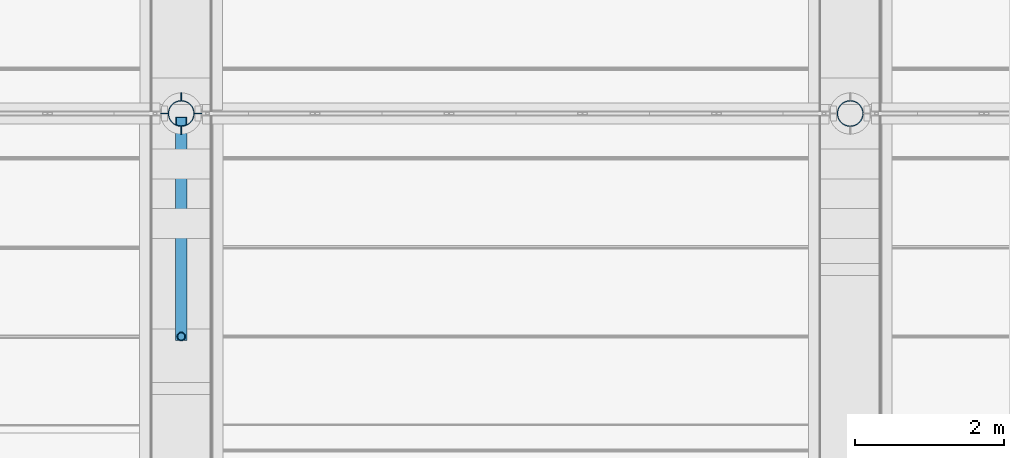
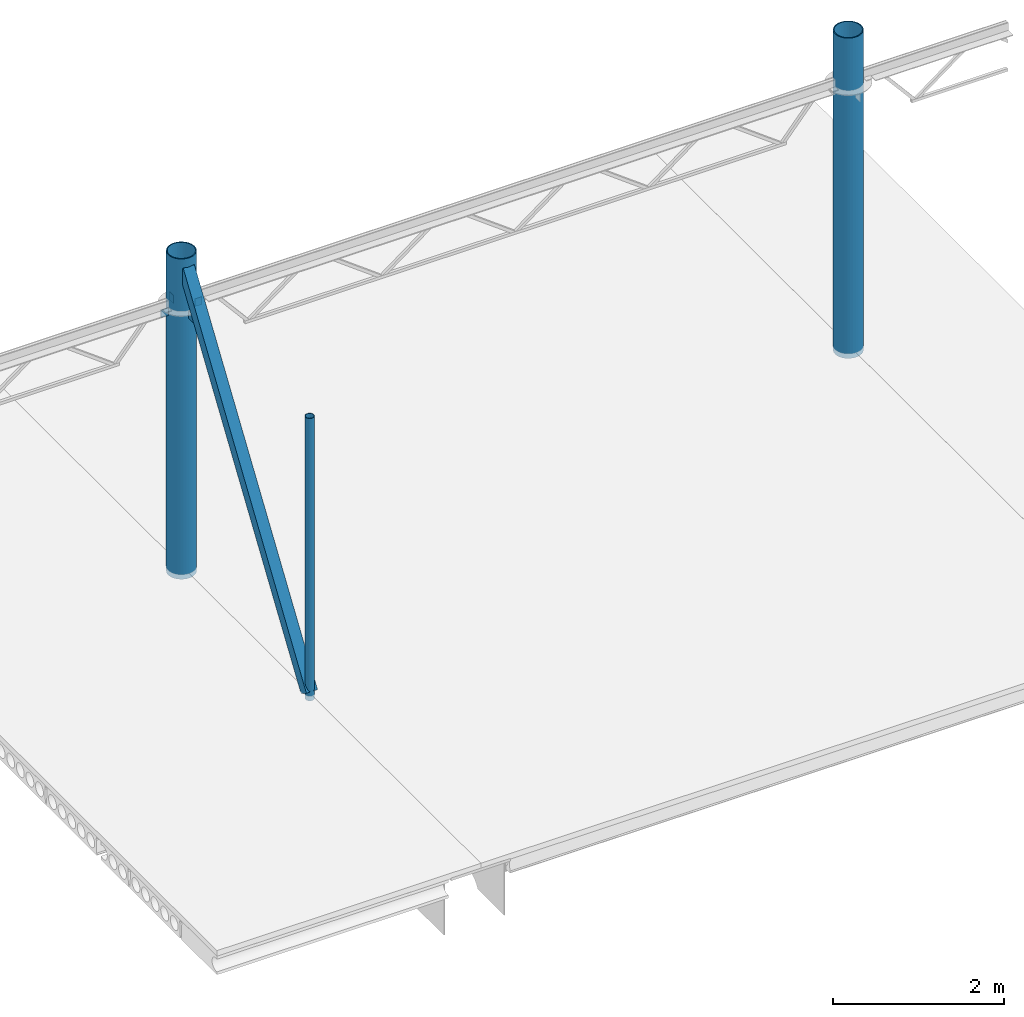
# One storey, part 1 of 21: 8 columns.
"""IFC2X3 building model written with IfcOpenShell, lengths in millimetres."""

from ifc_helpers import new_model, entity, si_unit, converted_unit, derived_unit, direction, frame, origin_with_axes, place, context, subcontext, project, spatial, faceted_brep, material, type_object, element, save


model = new_model("IFC2X3")

# Units and contexts
model_context = context("Model", 3, precision=0.01, world=frame((0.0, 4.29681676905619e-09, 0.0)), true_north=direction((4.01073788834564e-13, 1.0)))
plan_context = context("Plan", 3, precision=0.01, world=frame((0.0, 4.29681676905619e-09, 0.0)), true_north=direction((4.01073788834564e-13, 1.0)))
body_context = subcontext(model_context, "Body", "Model", "MODEL_VIEW")
ifc_project = project(units=[converted_unit("PLANEANGLEUNIT", "DEGREE", entity("IfcPositiveLengthMeasure", 0.0174532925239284), si_unit("PLANEANGLEUNIT", "RADIAN"), dimensions=[0, 0, 0, 0, 0, 0, 0]), si_unit("AREAUNIT", "SQUARE_METRE"), si_unit("LENGTHUNIT", "METRE", prefix="MILLI"), si_unit("MASSUNIT", "GRAM", prefix="KILO"), si_unit("POWERUNIT", "WATT"), si_unit("PRESSUREUNIT", "PASCAL", prefix="KILO"), si_unit("FORCEUNIT", "NEWTON", prefix="KILO"), si_unit("ELECTRICVOLTAGEUNIT", "VOLT"), si_unit("ELECTRICCURRENTUNIT", "AMPERE"), si_unit("THERMODYNAMICTEMPERATUREUNIT", "DEGREE_CELSIUS"), si_unit("TIMEUNIT", "SECOND"), si_unit("VOLUMEUNIT", "CUBIC_METRE"), derived_unit("LINEARVELOCITYUNIT", [(si_unit("LENGTHUNIT", "METRE"), 1), (si_unit("TIMEUNIT", "SECOND"), -1)]), derived_unit("VOLUMETRICFLOWRATEUNIT", [(si_unit("VOLUMEUNIT", "CUBIC_METRE"), 1), (si_unit("TIMEUNIT", "SECOND"), -1)]), derived_unit("THERMALTRANSMITTANCEUNIT", [(si_unit("POWERUNIT", "WATT"), 1), (si_unit("THERMODYNAMICTEMPERATUREUNIT", "KELVIN"), -1), (si_unit("AREAUNIT", "SQUARE_METRE"), -1)]), derived_unit("SOUNDPRESSUREUNIT", [(si_unit("PRESSUREUNIT", "PASCAL"), 1)])], contexts=[model_context, plan_context])

# Site, building, storey
site_placement = place(None, frame((0.0, -4.29681676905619e-09, 0.0), z_axis=(0.0, 0.0, 1.0), x_axis=(1.0, 0.0, 0.0)))
site = spatial("IfcSite", under=ifc_project, at=site_placement, Name="Gardermoen", CompositionType="ELEMENT")
building_placement = place(site_placement, frame((0.0, 4.29681676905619e-09, 0.0), z_axis=(0.0, 0.0, 1.0), x_axis=(1.0, 0.0, 0.0)))
building = spatial("IfcBuilding", under=site, at=building_placement, Name="TS", CompositionType="ELEMENT")
storey_placement = place(building_placement, origin_with_axes())
storey = spatial("IfcBuildingStorey", under=building, at=storey_placement, Name="F", CompositionType="ELEMENT", Elevation=0.0)

# Columns
ifc_material = material(Name="STEEL/S355")
column_type_1 = type_object("IfcColumnType", Name="RHS150*8", PredefinedType="NOTDEFINED")
column_1_placement = place(storey_placement, frame((717999.999908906, 438509.245655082, 210890.694603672), z_axis=(-1.3660000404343e-06, 0.831946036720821, -0.554856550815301), x_axis=(-9.10999991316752e-07, 0.554856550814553, 0.831946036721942)))
element("IfcColumn", 1, at=column_1_placement, inside=storey, type_object=column_type_1, material=ifc_material, Name="STÅLDIAGONAL", ObjectType="RHS150*8", context=body_context, shape_type="Brep", body=[
    faceted_brep([(8.14907252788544e-10, 67.0000000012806, -66.9999999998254), (-1.16415321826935e-10, -66.9999999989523, -67.0000000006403), (5190.1397421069, -66.9999997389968, -66.9999999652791), (5190.13974210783, 67.000000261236, -66.999999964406), (-8.14907252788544e-10, -67.0000000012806, 66.9999999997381), (5190.1397421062, -66.9999997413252, 67.0000000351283), (5.82076609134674e-11, 66.9999999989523, 67.000000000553), (5190.13974210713, 67.0000002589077, 67.0000000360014), (2.6775524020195e-09, 75.0, -75.0), (2.6775524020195e-09, 75.0, 75.0), (5190.13974210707, 75.0000002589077, 75.0000000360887), (5190.13974210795, 75.0000002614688, -74.999999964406), (0.0, -75.0, 75.0), (5190.13974210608, -74.9999997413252, 75.0000000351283), (-2.79396772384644e-09, -75.0000000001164, -75.0), (5190.1397421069, -74.9999997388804, -74.9999999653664)], [[[0, 1, 2, 3]], [[1, 4, 5, 2]], [[4, 6, 7, 5]], [[6, 0, 3, 7]], [[8, 9, 10, 11]], [[9, 12, 13, 10]], [[12, 14, 15, 13]], [[14, 8, 11, 15]], [[13, 15, 11, 10], [5, 7, 3, 2]], [[14, 12, 9, 8], [6, 4, 1, 0]]]),
])
column_type_2 = type_object("IfcColumnType", Name="100*10", PredefinedType="NOTDEFINED")
for number, where, z_axis, x_axis in (
    (2, (718000.0, 441728.0, 214510.999999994), (0.0, -1.0, 0.0), (0.0, 0.0, 1.0)),
    (3, (718228.0, 441500.0, 214510.999999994), (-0.999999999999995, -9.99999902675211e-08, 0.0), (0.0, 0.0, 1.0)),
    (4, (718000.0, 441272.0, 214510.999999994), (0.0, 1.0, 0.0), (0.0, 0.0, 1.0)),
    (5, (717772.0, 441500.0, 214510.999999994), (1.0, 0.0, 0.0), (0.0, 0.0, 1.0)),
):
    element("IfcColumn", number, at=place(storey_placement, frame(where, z_axis=z_axis, x_axis=x_axis)), inside=storey, type_object=column_type_2, material=ifc_material, Name="STÅLSØYLE", ObjectType="100*10", context=body_context, shape_type="Brep", body=[
        faceted_brep([(6.40284270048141e-10, 5.0, -50.0), (-5.82076609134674e-10, 5.00000000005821, 50.0), (109.999999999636, 4.99999999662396, 49.9999999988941), (109.999999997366, 4.99999999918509, -49.9999999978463), (-6.98491930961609e-10, -5.0, 50.0), (109.999999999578, -5.00000000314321, 49.9999999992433), (5.23868948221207e-10, -5.0, -50.0), (109.99999999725, -5.00000000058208, -49.9999999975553)], [[[0, 1, 2, 3]], [[1, 4, 5, 2]], [[4, 6, 7, 5]], [[6, 0, 3, 7]], [[5, 7, 3, 2]], [[6, 4, 1, 0]]]),
    ])
column_type_3 = type_object("IfcColumnType", Name="RØR114.3X7.1", PredefinedType="NOTDEFINED")
column_2_placement = place(storey_placement, frame((718000.0, 438500.0, 210805.0), z_axis=(0.999999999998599, 2.82727748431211e-27, 1.67399999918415e-06), x_axis=(-1.6739999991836e-06, 8.13000020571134e-07, 0.999999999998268)))
element("IfcColumn", 6, at=column_2_placement, inside=storey, type_object=column_type_3, material=ifc_material, Name="STÅLSØYLE", ObjectType="RØR114.3X7.1", context=body_context, shape_type="Brep", body=[
    faceted_brep([(2.03726813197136e-10, -50.050000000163, -4.65661287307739e-10), (1.16415321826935e-10, -47.6003786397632, 15.4663005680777), (4028.0000000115, -47.6003786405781, 15.4663006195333), (4028.0000000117, -50.0499999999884, 5.11063262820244e-08), (5.82076609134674e-11, -40.4913005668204, 29.4186518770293), (4028.00000001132, -40.4913005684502, 29.4186519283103), (5.82076609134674e-11, -29.4186518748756, 40.4913005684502), (4028.00000001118, -29.4186518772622, 40.4913006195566), (-2.91038304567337e-11, -15.4663005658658, 47.600378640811), (4028.00000001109, -15.4663005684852, 47.600378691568), (-8.73114913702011e-11, 2.79396772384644e-09, 50.0500000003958), (4028.00000001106, 0.0, 50.0500000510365), (-1.74622982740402e-10, 15.4663005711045, 47.6003786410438), (4028.00000001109, 15.4663005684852, 47.600378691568), (-2.3283064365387e-10, 29.4186518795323, 40.4913005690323), (4028.00000001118, 29.4186518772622, 40.4913006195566), (-2.3283064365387e-10, 40.4913005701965, 29.4186518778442), (4028.00000001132, 40.4913005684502, 29.4186519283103), (-1.74622982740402e-10, 47.6003786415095, 15.4663005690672), (4028.0000000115, 47.6003786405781, 15.4663006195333), (-2.3283064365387e-10, 50.050000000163, 4.65661287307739e-10), (4028.0000000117, 50.0499999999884, 5.11063262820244e-08), (-1.74622982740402e-10, 47.6003786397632, -15.4663005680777), (4028.0000000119, 47.6003786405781, -15.466300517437), (-8.73114913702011e-11, 40.4913005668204, -29.4186518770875), (4028.00000001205, 40.4913005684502, -29.418651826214), (-5.82076609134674e-11, 29.4186518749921, -40.4913005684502), (4028.00000001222, 29.4186518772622, -40.4913005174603), (0.0, 15.4663005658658, -47.600378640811), (4028.00000001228, 15.4663005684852, -47.6003785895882), (1.16415321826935e-10, -2.6775524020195e-09, -50.0500000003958), (4028.00000001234, 0.0, -50.0499999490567), (1.74622982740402e-10, -15.4663005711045, -47.6003786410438), (4028.00000001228, -15.4663005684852, -47.6003785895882), (1.74622982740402e-10, -29.4186518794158, -40.4913005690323), (4028.00000001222, -29.4186518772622, -40.4913005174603), (2.3283064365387e-10, -40.4913005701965, -29.4186518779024), (4028.00000001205, -40.4913005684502, -29.418651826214), (2.03726813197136e-10, -47.6003786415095, -15.4663005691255), (4028.0000000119, -47.6003786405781, -15.466300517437), (0.0, -57.1500000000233, 0.0), (0.0, -54.352879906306, -17.6603212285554), (4028.0000000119, -54.3528799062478, -17.6603211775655), (4028.0000000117, -57.1500000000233, 5.11063262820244e-08), (0.0, -46.2353212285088, -33.5919271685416), (4028.00000001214, -46.2353212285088, -33.5919271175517), (0.0, -33.5919271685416, -46.2353212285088), (4028.00000001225, -33.5919271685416, -46.2353211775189), (0.0, -17.6603212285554, -54.3528799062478), (4028.0000000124, -17.6603212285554, -54.3528798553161), (0.0, 0.0, -57.1500000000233), (4028.00000001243, 0.0, -57.1499999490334), (0.0, 17.6603212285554, -54.3528799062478), (4028.0000000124, 17.6603212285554, -54.3528798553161), (0.0, 33.5919271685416, -46.2353212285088), (4028.00000001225, 33.5919271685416, -46.2353211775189), (0.0, 46.2353212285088, -33.5919271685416), (4028.00000001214, 46.2353212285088, -33.5919271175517), (0.0, 54.352879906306, -17.6603212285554), (4028.0000000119, 54.3528799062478, -17.6603211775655), (0.0, 57.1500000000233, 0.0), (4028.0000000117, 57.1500000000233, 5.11063262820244e-08), (0.0, 54.352879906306, 17.6603212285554), (4028.00000001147, 54.3528799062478, 17.6603212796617), (0.0, 46.2353212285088, 33.5919271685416), (4028.00000001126, 46.2353212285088, 33.5919272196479), (0.0, 33.5919271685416, 46.2353212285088), (4028.00000001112, 33.5919271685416, 46.2353212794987), (0.0, 17.6603212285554, 54.3528799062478), (4028.000000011, 17.6603212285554, 54.352879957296), (0.0, 0.0, 57.1500000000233), (4028.00000001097, 0.0, 57.1500000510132), (0.0, -17.6603212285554, 54.3528799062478), (4028.000000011, -17.6603212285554, 54.352879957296), (0.0, -33.5919271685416, 46.2353212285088), (4028.00000001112, -33.5919271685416, 46.2353212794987), (0.0, -46.2353212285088, 33.5919271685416), (4028.00000001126, -46.2353212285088, 33.5919272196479), (0.0, -54.352879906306, 17.6603212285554), (4028.00000001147, -54.3528799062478, 17.6603212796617)], [[[0, 1, 2, 3]], [[1, 4, 5, 2]], [[4, 6, 7, 5]], [[6, 8, 9, 7]], [[8, 10, 11, 9]], [[10, 12, 13, 11]], [[12, 14, 15, 13]], [[14, 16, 17, 15]], [[16, 18, 19, 17]], [[18, 20, 21, 19]], [[20, 22, 23, 21]], [[22, 24, 25, 23]], [[24, 26, 27, 25]], [[26, 28, 29, 27]], [[28, 30, 31, 29]], [[30, 32, 33, 31]], [[32, 34, 35, 33]], [[34, 36, 37, 35]], [[36, 38, 39, 37]], [[38, 0, 3, 39]], [[40, 41, 42, 43]], [[41, 44, 45, 42]], [[44, 46, 47, 45]], [[46, 48, 49, 47]], [[48, 50, 51, 49]], [[50, 52, 53, 51]], [[52, 54, 55, 53]], [[54, 56, 57, 55]], [[56, 58, 59, 57]], [[58, 60, 61, 59]], [[60, 62, 63, 61]], [[62, 64, 65, 63]], [[64, 66, 67, 65]], [[66, 68, 69, 67]], [[68, 70, 71, 69]], [[70, 72, 73, 71]], [[72, 74, 75, 73]], [[74, 76, 77, 75]], [[76, 78, 79, 77]], [[78, 40, 43, 79]], [[45, 47, 49, 51, 53, 55, 57, 59, 61, 63, 65, 67, 69, 71, 73, 75, 77, 79, 43, 42], [5, 7, 9, 11, 13, 15, 17, 19, 21, 23, 25, 27, 29, 31, 33, 35, 37, 39, 3, 2]], [[78, 76, 74, 72, 70, 68, 66, 64, 62, 60, 58, 56, 54, 52, 50, 48, 46, 44, 41, 40], [38, 36, 34, 32, 30, 28, 26, 24, 22, 20, 18, 16, 14, 12, 10, 8, 6, 4, 1, 0]]]),
])
column_type_4 = type_object("IfcColumnType", Name="RØR355.6X12.5", PredefinedType="NOTDEFINED")
column_3_placement = place(storey_placement, frame((727000.0, 441500.0, 210805.0), z_axis=(0.999999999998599, 0.0, 1.67399999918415e-06), x_axis=(-1.67399999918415e-06, 0.0, 0.999999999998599)))
element("IfcColumn", 7, at=column_3_placement, inside=storey, type_object=column_type_4, material=ifc_material, Name="STÅLSØYLE", ObjectType="RØR355.6X12.5", context=body_context, shape_type="Brep", body=[
    faceted_brep([(0.0, -165.299999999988, 1.16415321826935e-10), (3.49245965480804e-10, -162.123806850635, 32.2484302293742), (4570.0000000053, -162.123806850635, 32.2484301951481), (4570.00000000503, -165.299999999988, -3.42261046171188e-08), (6.98491930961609e-10, -152.717286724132, 63.2575713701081), (4570.00000000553, -152.717286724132, 63.2575713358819), (1.01863406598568e-09, -137.441926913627, 91.8357595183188), (4570.00000000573, -137.441926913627, 91.8357594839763), (1.30967237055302e-09, -116.884750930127, 116.88475093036), (4570.00000000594, -116.884750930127, 116.884750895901), (1.54250301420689e-09, -91.8357595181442, 137.441926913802), (4570.00000000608, -91.8357595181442, 137.441926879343), (1.71712599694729e-09, -63.2575713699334, 152.717286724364), (4570.00000000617, -63.2575713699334, 152.717286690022), (1.83354131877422e-09, -32.2484302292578, 162.123806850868), (4570.00000000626, -32.2484302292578, 162.123806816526), (1.86264514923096e-09, 0.0, 165.300000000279), (4570.00000000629, 0.0, 165.299999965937), (1.83354131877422e-09, 32.2484302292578, 162.123806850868), (4570.00000000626, 32.2484302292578, 162.123806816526), (1.71712599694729e-09, 63.2575713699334, 152.717286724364), (4570.00000000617, 63.2575713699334, 152.717286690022), (1.54250301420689e-09, 91.8357595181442, 137.441926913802), (4570.00000000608, 91.8357595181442, 137.441926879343), (1.30967237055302e-09, 116.884750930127, 116.88475093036), (4570.00000000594, 116.884750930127, 116.884750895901), (1.01863406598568e-09, 137.441926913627, 91.8357595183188), (4570.00000000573, 137.441926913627, 91.8357594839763), (6.98491930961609e-10, 152.717286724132, 63.2575713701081), (4570.00000000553, 152.717286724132, 63.2575713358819), (3.49245965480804e-10, 162.123806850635, 32.2484302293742), (4570.0000000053, 162.123806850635, 32.2484301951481), (0.0, 165.299999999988, 1.16415321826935e-10), (4570.00000000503, 165.299999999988, -3.42261046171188e-08), (-3.49245965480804e-10, 162.123806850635, -32.2484302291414), (4570.0000000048, 162.123806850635, -32.2484302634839), (-6.98491930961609e-10, 152.717286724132, -63.2575713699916), (4570.00000000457, 152.717286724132, -63.2575714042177), (-1.01863406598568e-09, 137.441926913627, -91.835759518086), (4570.00000000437, 137.441926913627, -91.8357595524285), (-1.30967237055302e-09, 116.884750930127, -116.884750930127), (4570.00000000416, 116.884750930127, -116.884750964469), (-1.54250301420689e-09, 91.8357595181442, -137.441926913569), (4570.00000000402, 91.8357595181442, -137.441926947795), (-1.71712599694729e-09, 63.2575713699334, -152.717286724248), (4570.00000000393, 63.2575713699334, -152.717286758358), (-1.83354131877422e-09, 32.2484302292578, -162.123806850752), (4570.00000000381, 32.2484302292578, -162.123806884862), (-1.86264514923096e-09, 0.0, -165.300000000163), (4570.00000000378, 0.0, -165.300000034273), (-1.83354131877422e-09, -32.2484302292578, -162.123806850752), (4570.00000000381, -32.2484302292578, -162.123806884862), (-1.71712599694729e-09, -63.2575713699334, -152.717286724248), (4570.00000000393, -63.2575713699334, -152.717286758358), (-1.54250301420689e-09, -91.8357595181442, -137.441926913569), (4570.00000000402, -91.8357595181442, -137.441926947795), (-1.30967237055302e-09, -116.884750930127, -116.884750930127), (4570.00000000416, -116.884750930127, -116.884750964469), (-1.01863406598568e-09, -137.441926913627, -91.835759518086), (4570.00000000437, -137.441926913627, -91.8357595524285), (-6.98491930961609e-10, -152.717286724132, -63.2575713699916), (4570.00000000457, -152.717286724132, -63.2575714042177), (-3.49245965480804e-10, -162.123806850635, -32.2484302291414), (4570.0000000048, -162.123806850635, -32.2484302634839), (0.0, -177.799999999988, 0.0), (0.0, -174.383622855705, -34.6870592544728), (4570.00000000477, -174.383622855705, -34.6870592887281), (4570.00000000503, -177.799999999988, -3.42261046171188e-08), (0.0, -164.265780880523, -68.0411142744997), (4570.00000000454, -164.265780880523, -68.0411143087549), (0.0, -147.835297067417, -98.7803874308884), (4570.00000000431, -147.835297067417, -98.78038746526), (0.0, -125.72358569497, -125.72358569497), (4570.0000000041, -125.72358569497, -125.723585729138), (0.0, -98.7803874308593, -147.835297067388), (4570.00000000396, -98.7803874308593, -147.835297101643), (0.0, -68.0411142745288, -164.265780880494), (4570.00000000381, -68.0411142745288, -164.265780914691), (0.0, -34.6870592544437, -174.383622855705), (4570.00000000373, -34.6870592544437, -174.383622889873), (0.0, 0.0, -177.799999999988), (4570.0000000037, 0.0, -177.800000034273), (0.0, 34.6870592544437, -174.383622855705), (4570.00000000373, 34.6870592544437, -174.383622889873), (0.0, 68.0411142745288, -164.265780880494), (4570.00000000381, 68.0411142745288, -164.265780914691), (0.0, 98.7803874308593, -147.835297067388), (4570.00000000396, 98.7803874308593, -147.835297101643), (0.0, 125.72358569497, -125.72358569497), (4570.0000000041, 125.72358569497, -125.723585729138), (0.0, 147.835297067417, -98.7803874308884), (4570.00000000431, 147.835297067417, -98.78038746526), (0.0, 164.265780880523, -68.0411142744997), (4570.00000000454, 164.265780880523, -68.0411143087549), (0.0, 174.383622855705, -34.6870592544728), (4570.00000000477, 174.383622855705, -34.6870592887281), (0.0, 177.799999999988, 0.0), (4570.00000000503, 177.799999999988, -3.42261046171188e-08), (0.0, 174.383622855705, 34.6870592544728), (4570.00000000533, 174.383622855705, 34.6870592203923), (0.0, 164.265780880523, 68.0411142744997), (4570.00000000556, 164.265780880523, 68.0411142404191), (0.0, 147.835297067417, 98.7803874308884), (4570.00000000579, 147.835297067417, 98.7803873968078), (0.0, 125.72358569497, 125.72358569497), (4570.000000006, 125.72358569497, 125.723585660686), (0.0, 98.7803874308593, 147.835297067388), (4570.00000000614, 98.7803874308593, 147.835297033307), (0.0, 68.0411142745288, 164.265780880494), (4570.00000000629, 68.0411142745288, 164.265780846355), (0.0, 34.6870592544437, 174.383622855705), (4570.00000000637, 34.6870592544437, 174.383622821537), (0.0, 0.0, 177.799999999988), (4570.00000000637, 0.0, 177.799999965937), (0.0, -34.6870592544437, 174.383622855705), (4570.00000000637, -34.6870592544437, 174.383622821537), (0.0, -68.0411142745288, 164.265780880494), (4570.00000000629, -68.0411142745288, 164.265780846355), (0.0, -98.7803874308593, 147.835297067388), (4570.00000000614, -98.7803874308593, 147.835297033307), (0.0, -125.72358569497, 125.72358569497), (4570.000000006, -125.72358569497, 125.723585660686), (0.0, -147.835297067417, 98.7803874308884), (4570.00000000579, -147.835297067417, 98.7803873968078), (0.0, -164.265780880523, 68.0411142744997), (4570.00000000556, -164.265780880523, 68.0411142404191), (0.0, -174.383622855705, 34.6870592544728), (4570.00000000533, -174.383622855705, 34.6870592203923)], [[[0, 1, 2, 3]], [[1, 4, 5, 2]], [[4, 6, 7, 5]], [[6, 8, 9, 7]], [[8, 10, 11, 9]], [[10, 12, 13, 11]], [[12, 14, 15, 13]], [[14, 16, 17, 15]], [[16, 18, 19, 17]], [[18, 20, 21, 19]], [[20, 22, 23, 21]], [[22, 24, 25, 23]], [[24, 26, 27, 25]], [[26, 28, 29, 27]], [[28, 30, 31, 29]], [[30, 32, 33, 31]], [[32, 34, 35, 33]], [[34, 36, 37, 35]], [[36, 38, 39, 37]], [[38, 40, 41, 39]], [[40, 42, 43, 41]], [[42, 44, 45, 43]], [[44, 46, 47, 45]], [[46, 48, 49, 47]], [[48, 50, 51, 49]], [[50, 52, 53, 51]], [[52, 54, 55, 53]], [[54, 56, 57, 55]], [[56, 58, 59, 57]], [[58, 60, 61, 59]], [[60, 62, 63, 61]], [[62, 0, 3, 63]], [[64, 65, 66, 67]], [[65, 68, 69, 66]], [[68, 70, 71, 69]], [[70, 72, 73, 71]], [[72, 74, 75, 73]], [[74, 76, 77, 75]], [[76, 78, 79, 77]], [[78, 80, 81, 79]], [[80, 82, 83, 81]], [[82, 84, 85, 83]], [[84, 86, 87, 85]], [[86, 88, 89, 87]], [[88, 90, 91, 89]], [[90, 92, 93, 91]], [[92, 94, 95, 93]], [[94, 96, 97, 95]], [[96, 98, 99, 97]], [[98, 100, 101, 99]], [[100, 102, 103, 101]], [[102, 104, 105, 103]], [[104, 106, 107, 105]], [[106, 108, 109, 107]], [[108, 110, 111, 109]], [[110, 112, 113, 111]], [[112, 114, 115, 113]], [[114, 116, 117, 115]], [[116, 118, 119, 117]], [[118, 120, 121, 119]], [[120, 122, 123, 121]], [[122, 124, 125, 123]], [[124, 126, 127, 125]], [[126, 64, 67, 127]], [[69, 71, 73, 75, 77, 79, 81, 83, 85, 87, 89, 91, 93, 95, 97, 99, 101, 103, 105, 107, 109, 111, 113, 115, 117, 119, 121, 123, 125, 127, 67, 66], [5, 7, 9, 11, 13, 15, 17, 19, 21, 23, 25, 27, 29, 31, 33, 35, 37, 39, 41, 43, 45, 47, 49, 51, 53, 55, 57, 59, 61, 63, 3, 2]], [[126, 124, 122, 120, 118, 116, 114, 112, 110, 108, 106, 104, 102, 100, 98, 96, 94, 92, 90, 88, 86, 84, 82, 80, 78, 76, 74, 72, 70, 68, 65, 64], [62, 60, 58, 56, 54, 52, 50, 48, 46, 44, 42, 40, 38, 36, 34, 32, 30, 28, 26, 24, 22, 20, 18, 16, 14, 12, 10, 8, 6, 4, 1, 0]]]),
])
column_4_placement = place(storey_placement, frame((718000.0, 441500.0, 210805.0), z_axis=(0.999999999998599, 0.0, 1.67399999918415e-06), x_axis=(-1.67399999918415e-06, 0.0, 0.999999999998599)))
element("IfcColumn", 8, at=column_4_placement, inside=storey, type_object=column_type_4, material=ifc_material, Name="STÅLSØYLE", ObjectType="RØR355.6X12.5", context=body_context, shape_type="Brep", body=[
    faceted_brep([(0.0, -165.299999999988, 1.16415321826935e-10), (3.49245965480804e-10, -162.123806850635, 32.2484302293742), (4570.0000000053, -162.123806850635, 32.2484301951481), (4570.00000000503, -165.299999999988, -3.42261046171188e-08), (6.98491930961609e-10, -152.717286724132, 63.2575713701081), (4570.00000000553, -152.717286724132, 63.2575713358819), (1.01863406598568e-09, -137.441926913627, 91.8357595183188), (4570.00000000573, -137.441926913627, 91.8357594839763), (1.30967237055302e-09, -116.884750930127, 116.88475093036), (4570.00000000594, -116.884750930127, 116.884750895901), (1.54250301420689e-09, -91.8357595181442, 137.441926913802), (4570.00000000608, -91.8357595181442, 137.441926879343), (1.71712599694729e-09, -63.2575713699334, 152.717286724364), (4570.00000000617, -63.2575713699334, 152.717286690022), (1.83354131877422e-09, -32.2484302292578, 162.123806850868), (4570.00000000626, -32.2484302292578, 162.123806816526), (1.86264514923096e-09, 0.0, 165.300000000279), (4570.00000000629, 0.0, 165.299999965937), (1.83354131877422e-09, 32.2484302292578, 162.123806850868), (4570.00000000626, 32.2484302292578, 162.123806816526), (1.71712599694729e-09, 63.2575713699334, 152.717286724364), (4570.00000000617, 63.2575713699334, 152.717286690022), (1.54250301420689e-09, 91.8357595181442, 137.441926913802), (4570.00000000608, 91.8357595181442, 137.441926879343), (1.30967237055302e-09, 116.884750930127, 116.88475093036), (4570.00000000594, 116.884750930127, 116.884750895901), (1.01863406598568e-09, 137.441926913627, 91.8357595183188), (4570.00000000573, 137.441926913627, 91.8357594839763), (6.98491930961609e-10, 152.717286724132, 63.2575713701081), (4570.00000000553, 152.717286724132, 63.2575713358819), (3.49245965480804e-10, 162.123806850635, 32.2484302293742), (4570.0000000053, 162.123806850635, 32.2484301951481), (0.0, 165.299999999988, 1.16415321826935e-10), (4570.00000000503, 165.299999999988, -3.42261046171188e-08), (-3.49245965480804e-10, 162.123806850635, -32.2484302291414), (4570.0000000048, 162.123806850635, -32.2484302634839), (-6.98491930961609e-10, 152.717286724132, -63.2575713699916), (4570.00000000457, 152.717286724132, -63.2575714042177), (-1.01863406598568e-09, 137.441926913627, -91.835759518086), (4570.00000000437, 137.441926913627, -91.8357595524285), (-1.30967237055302e-09, 116.884750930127, -116.884750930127), (4570.00000000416, 116.884750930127, -116.884750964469), (-1.54250301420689e-09, 91.8357595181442, -137.441926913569), (4570.00000000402, 91.8357595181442, -137.441926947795), (-1.71712599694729e-09, 63.2575713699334, -152.717286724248), (4570.00000000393, 63.2575713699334, -152.717286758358), (-1.83354131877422e-09, 32.2484302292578, -162.123806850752), (4570.00000000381, 32.2484302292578, -162.123806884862), (-1.86264514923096e-09, 0.0, -165.300000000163), (4570.00000000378, 0.0, -165.300000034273), (-1.83354131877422e-09, -32.2484302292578, -162.123806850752), (4570.00000000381, -32.2484302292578, -162.123806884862), (-1.71712599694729e-09, -63.2575713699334, -152.717286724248), (4570.00000000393, -63.2575713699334, -152.717286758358), (-1.54250301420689e-09, -91.8357595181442, -137.441926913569), (4570.00000000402, -91.8357595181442, -137.441926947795), (-1.30967237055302e-09, -116.884750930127, -116.884750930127), (4570.00000000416, -116.884750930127, -116.884750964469), (-1.01863406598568e-09, -137.441926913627, -91.835759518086), (4570.00000000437, -137.441926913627, -91.8357595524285), (-6.98491930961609e-10, -152.717286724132, -63.2575713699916), (4570.00000000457, -152.717286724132, -63.2575714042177), (-3.49245965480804e-10, -162.123806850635, -32.2484302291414), (4570.0000000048, -162.123806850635, -32.2484302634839), (0.0, -177.799999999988, 0.0), (0.0, -174.383622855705, -34.6870592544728), (4570.00000000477, -174.383622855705, -34.6870592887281), (4570.00000000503, -177.799999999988, -3.42261046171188e-08), (0.0, -164.265780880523, -68.0411142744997), (4570.00000000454, -164.265780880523, -68.0411143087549), (0.0, -147.835297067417, -98.7803874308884), (4570.00000000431, -147.835297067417, -98.78038746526), (0.0, -125.72358569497, -125.72358569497), (4570.0000000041, -125.72358569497, -125.723585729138), (0.0, -98.7803874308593, -147.835297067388), (4570.00000000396, -98.7803874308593, -147.835297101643), (0.0, -68.0411142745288, -164.265780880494), (4570.00000000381, -68.0411142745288, -164.265780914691), (0.0, -34.6870592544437, -174.383622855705), (4570.00000000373, -34.6870592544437, -174.383622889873), (0.0, 0.0, -177.799999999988), (4570.0000000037, 0.0, -177.800000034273), (0.0, 34.6870592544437, -174.383622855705), (4570.00000000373, 34.6870592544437, -174.383622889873), (0.0, 68.0411142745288, -164.265780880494), (4570.00000000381, 68.0411142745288, -164.265780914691), (0.0, 98.7803874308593, -147.835297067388), (4570.00000000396, 98.7803874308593, -147.835297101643), (0.0, 125.72358569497, -125.72358569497), (4570.0000000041, 125.72358569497, -125.723585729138), (0.0, 147.835297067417, -98.7803874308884), (4570.00000000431, 147.835297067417, -98.78038746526), (0.0, 164.265780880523, -68.0411142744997), (4570.00000000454, 164.265780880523, -68.0411143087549), (0.0, 174.383622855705, -34.6870592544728), (4570.00000000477, 174.383622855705, -34.6870592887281), (0.0, 177.799999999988, 0.0), (4570.00000000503, 177.799999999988, -3.42261046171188e-08), (0.0, 174.383622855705, 34.6870592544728), (4570.00000000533, 174.383622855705, 34.6870592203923), (0.0, 164.265780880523, 68.0411142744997), (4570.00000000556, 164.265780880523, 68.0411142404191), (0.0, 147.835297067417, 98.7803874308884), (4570.00000000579, 147.835297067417, 98.7803873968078), (0.0, 125.72358569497, 125.72358569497), (4570.000000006, 125.72358569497, 125.723585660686), (0.0, 98.7803874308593, 147.835297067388), (4570.00000000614, 98.7803874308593, 147.835297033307), (0.0, 68.0411142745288, 164.265780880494), (4570.00000000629, 68.0411142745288, 164.265780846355), (0.0, 34.6870592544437, 174.383622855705), (4570.00000000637, 34.6870592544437, 174.383622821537), (0.0, 0.0, 177.799999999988), (4570.00000000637, 0.0, 177.799999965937), (0.0, -34.6870592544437, 174.383622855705), (4570.00000000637, -34.6870592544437, 174.383622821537), (0.0, -68.0411142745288, 164.265780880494), (4570.00000000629, -68.0411142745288, 164.265780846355), (0.0, -98.7803874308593, 147.835297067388), (4570.00000000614, -98.7803874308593, 147.835297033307), (0.0, -125.72358569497, 125.72358569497), (4570.000000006, -125.72358569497, 125.723585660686), (0.0, -147.835297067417, 98.7803874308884), (4570.00000000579, -147.835297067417, 98.7803873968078), (0.0, -164.265780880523, 68.0411142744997), (4570.00000000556, -164.265780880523, 68.0411142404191), (0.0, -174.383622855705, 34.6870592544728), (4570.00000000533, -174.383622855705, 34.6870592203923)], [[[0, 1, 2, 3]], [[1, 4, 5, 2]], [[4, 6, 7, 5]], [[6, 8, 9, 7]], [[8, 10, 11, 9]], [[10, 12, 13, 11]], [[12, 14, 15, 13]], [[14, 16, 17, 15]], [[16, 18, 19, 17]], [[18, 20, 21, 19]], [[20, 22, 23, 21]], [[22, 24, 25, 23]], [[24, 26, 27, 25]], [[26, 28, 29, 27]], [[28, 30, 31, 29]], [[30, 32, 33, 31]], [[32, 34, 35, 33]], [[34, 36, 37, 35]], [[36, 38, 39, 37]], [[38, 40, 41, 39]], [[40, 42, 43, 41]], [[42, 44, 45, 43]], [[44, 46, 47, 45]], [[46, 48, 49, 47]], [[48, 50, 51, 49]], [[50, 52, 53, 51]], [[52, 54, 55, 53]], [[54, 56, 57, 55]], [[56, 58, 59, 57]], [[58, 60, 61, 59]], [[60, 62, 63, 61]], [[62, 0, 3, 63]], [[64, 65, 66, 67]], [[65, 68, 69, 66]], [[68, 70, 71, 69]], [[70, 72, 73, 71]], [[72, 74, 75, 73]], [[74, 76, 77, 75]], [[76, 78, 79, 77]], [[78, 80, 81, 79]], [[80, 82, 83, 81]], [[82, 84, 85, 83]], [[84, 86, 87, 85]], [[86, 88, 89, 87]], [[88, 90, 91, 89]], [[90, 92, 93, 91]], [[92, 94, 95, 93]], [[94, 96, 97, 95]], [[96, 98, 99, 97]], [[98, 100, 101, 99]], [[100, 102, 103, 101]], [[102, 104, 105, 103]], [[104, 106, 107, 105]], [[106, 108, 109, 107]], [[108, 110, 111, 109]], [[110, 112, 113, 111]], [[112, 114, 115, 113]], [[114, 116, 117, 115]], [[116, 118, 119, 117]], [[118, 120, 121, 119]], [[120, 122, 123, 121]], [[122, 124, 125, 123]], [[124, 126, 127, 125]], [[126, 64, 67, 127]], [[69, 71, 73, 75, 77, 79, 81, 83, 85, 87, 89, 91, 93, 95, 97, 99, 101, 103, 105, 107, 109, 111, 113, 115, 117, 119, 121, 123, 125, 127, 67, 66], [5, 7, 9, 11, 13, 15, 17, 19, 21, 23, 25, 27, 29, 31, 33, 35, 37, 39, 41, 43, 45, 47, 49, 51, 53, 55, 57, 59, 61, 63, 3, 2]], [[126, 124, 122, 120, 118, 116, 114, 112, 110, 108, 106, 104, 102, 100, 98, 96, 94, 92, 90, 88, 86, 84, 82, 80, 78, 76, 74, 72, 70, 68, 65, 64], [62, 60, 58, 56, 54, 52, 50, 48, 46, 44, 42, 40, 38, 36, 34, 32, 30, 28, 26, 24, 22, 20, 18, 16, 14, 12, 10, 8, 6, 4, 1, 0]]]),
])

save(model, "model.ifc")
